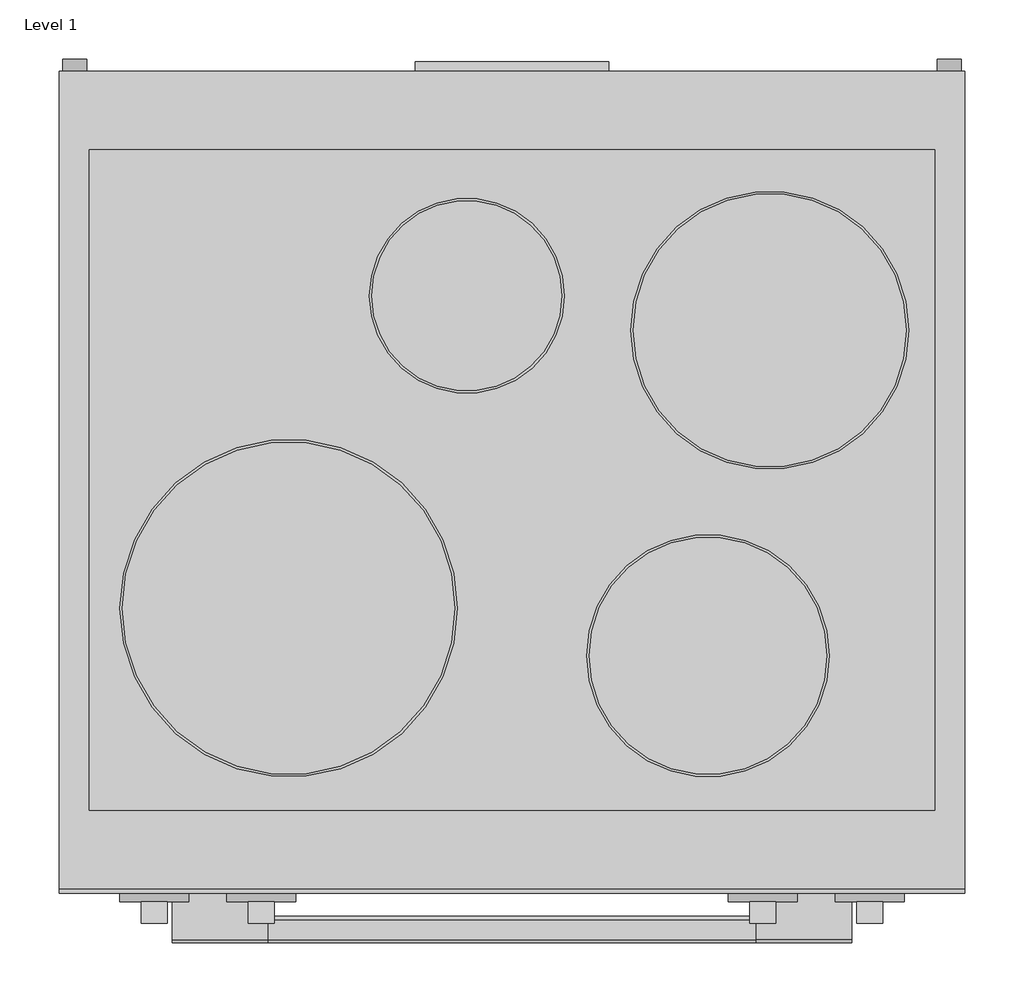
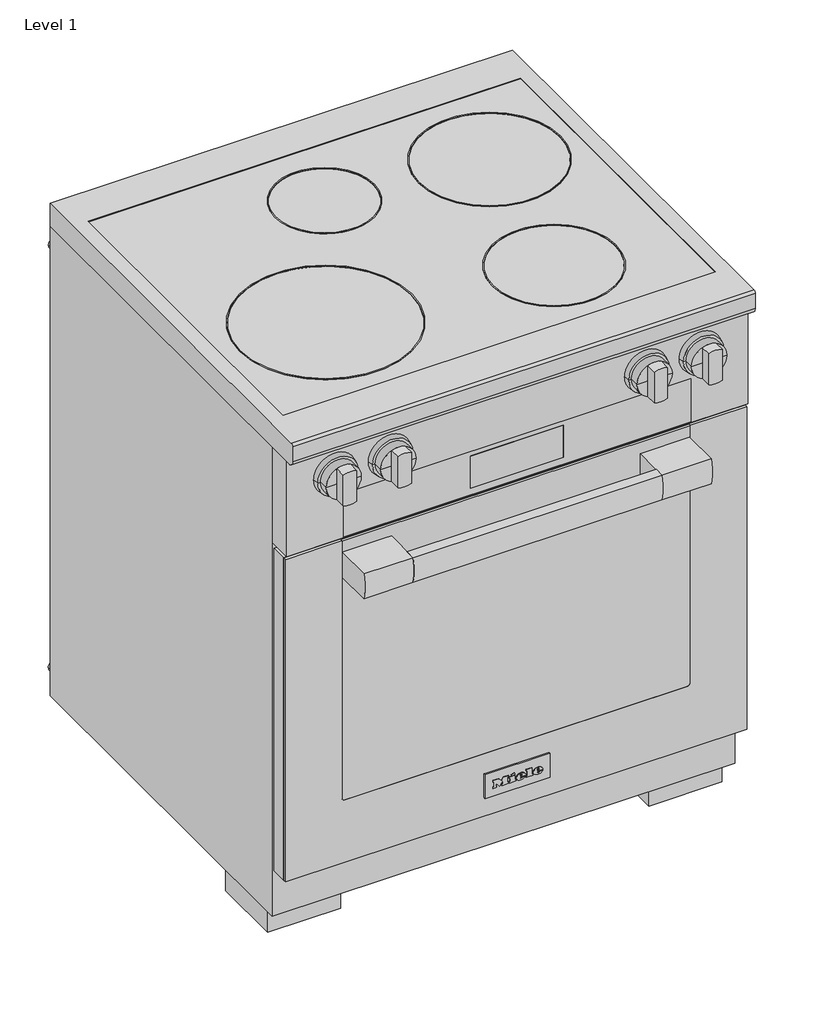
# One storey: 1 proxy.
"""IFC4 building model written with IfcOpenShell, lengths in millimetres."""

from ifc_helpers import new_model, si_unit, origin, place, context, project, spatial, transform, mapped, element, save
from components import specialty_equipment_b242dd7c

model = new_model("IFC4")

# Units and contexts
model_context = context("Model", 3, world=origin())
ifc_project = project(units=[si_unit("LENGTHUNIT", "METRE", prefix="MILLI")], contexts=[model_context])

# Site, building, storey
site = spatial("IfcSite", under=ifc_project)
building = spatial("IfcBuilding", under=site)
storey = spatial("IfcBuildingStorey", under=building, Name="Level 1", Elevation=0.0)

# Proxy
placement = place(None, origin())
specialty_equipment_shape = specialty_equipment_b242dd7c(model_context)
element("IfcBuildingElementProxy", 1, Name="11791520_USA_HR1622-3_EDST-CLST : 25162281_USA_11791520_HR1622-3_EDST-CLST", ObjectType="11791520_USA_HR1622-3_EDST-CLST : 25162281_USA_11791520_HR1622-3_EDST-CLST", at=placement, inside=storey, context=model_context, shape_type="MappedRepresentation", body=[
    mapped(specialty_equipment_shape, transform((0.0, 0.0, 0.0), x_axis=(1.0, 0.0, 0.0), y_axis=(0.0, 1.0, 0.0), z_axis=(0.0, 0.0, 1.0))),
])

save(model, "model.ifc")
